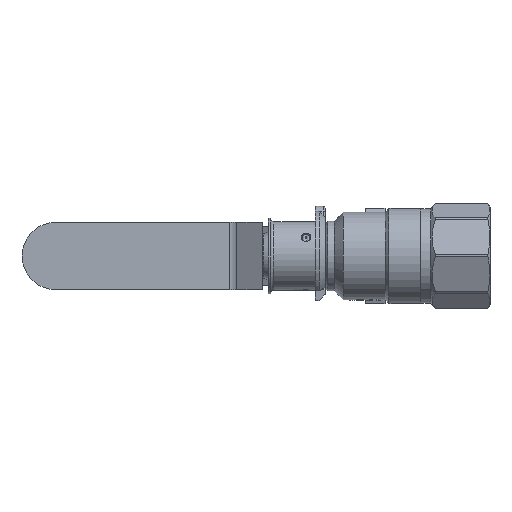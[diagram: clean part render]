
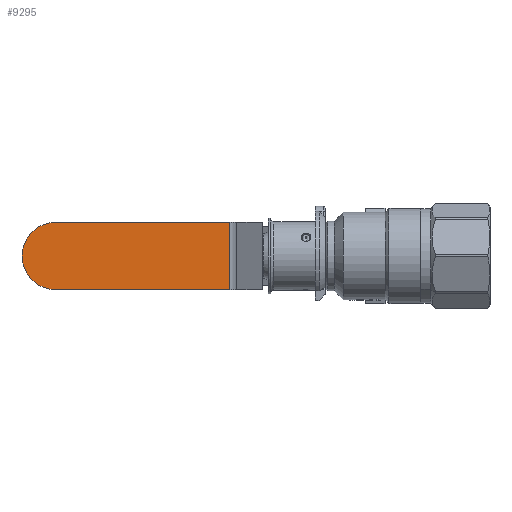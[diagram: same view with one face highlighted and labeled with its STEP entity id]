
A CAD part, front view. The second image highlights one B-rep face of the part: STEP entity #9295.
In plain terms, the highlighted planar face has unit normal (0, -1, 0) as drawn and (0, 0, -1) by its records, which use the part's own axes.
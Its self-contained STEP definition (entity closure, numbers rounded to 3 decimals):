
#649 = ORIENTED_EDGE ( 'NONE', *, *, #4020, .T. ) ;
#2085 = AXIS2_PLACEMENT_3D ( 'NONE', #21224, #25359, #6886 ) ;
#2227 = DIRECTION ( 'NONE',  ( 0., -1., 0. ) ) ;
#3033 = VECTOR ( 'NONE', #2227, 1000. ) ;
#4020 = EDGE_CURVE ( 'NONE', #46271, #16439, #17107, .T. ) ;
#4091 = DIRECTION ( 'NONE',  ( 0., 0., -1. ) ) ;
#5842 = CIRCLE ( 'NONE', #12418, 8.5 ) ;
#6886 = DIRECTION ( 'NONE',  ( -1., 0., 0. ) ) ;
#7170 = FACE_OUTER_BOUND ( 'NONE', #8840, .T. ) ;
#7308 = CARTESIAN_POINT ( 'NONE',  ( 36.668, -8.5, 14.579 ) ) ;
#8523 = VERTEX_POINT ( 'NONE', #16610 ) ;
#8840 = EDGE_LOOP ( 'NONE', ( #649, #28434, #25719, #17625, #20580 ) ) ;
#9295 = ADVANCED_FACE ( 'NONE', ( #7170 ), #21694, .T. ) ;
#11517 = CARTESIAN_POINT ( 'NONE',  ( 80.604, 0., 14.579 ) ) ;
#12418 = AXIS2_PLACEMENT_3D ( 'NONE', #44027, #4091, #18578 ) ;
#12637 = CIRCLE ( 'NONE', #20898, 8.5 ) ;
#13515 = EDGE_CURVE ( 'NONE', #46271, #19314, #36329, .T. ) ;
#15060 = EDGE_CURVE ( 'NONE', #19314, #26822, #20784, .T. ) ;
#15526 = DIRECTION ( 'NONE',  ( 0., 0., -1. ) ) ;
#15970 = CARTESIAN_POINT ( 'NONE',  ( 36.668, 8.5, 14.579 ) ) ;
#16326 = CARTESIAN_POINT ( 'NONE',  ( 80.604, -8.5, 14.579 ) ) ;
#16439 = VERTEX_POINT ( 'NONE', #28429 ) ;
#16610 = CARTESIAN_POINT ( 'NONE',  ( 89.104, 0., 14.579 ) ) ;
#17107 = LINE ( 'NONE', #15970, #39447 ) ;
#17625 = ORIENTED_EDGE ( 'NONE', *, *, #15060, .F. ) ;
#18578 = DIRECTION ( 'NONE',  ( -1., 0., 0. ) ) ;
#19314 = VERTEX_POINT ( 'NONE', #7308 ) ;
#19557 = EDGE_CURVE ( 'NONE', #8523, #26822, #5842, .T. ) ;
#20580 = ORIENTED_EDGE ( 'NONE', *, *, #13515, .F. ) ;
#20784 = LINE ( 'NONE', #37369, #43118 ) ;
#20898 = AXIS2_PLACEMENT_3D ( 'NONE', #11517, #15526, #41161 ) ;
#21224 = CARTESIAN_POINT ( 'NONE',  ( 36.668, 8.5, 14.579 ) ) ;
#21694 = PLANE ( 'NONE',  #2085 ) ;
#25359 = DIRECTION ( 'NONE',  ( 0., 0., -1. ) ) ;
#25719 = ORIENTED_EDGE ( 'NONE', *, *, #19557, .T. ) ;
#26466 = DIRECTION ( 'NONE',  ( 1., 0., 0. ) ) ;
#26822 = VERTEX_POINT ( 'NONE', #16326 ) ;
#26864 = DIRECTION ( 'NONE',  ( 1., 0., 0. ) ) ;
#28429 = CARTESIAN_POINT ( 'NONE',  ( 80.604, 8.5, 14.579 ) ) ;
#28434 = ORIENTED_EDGE ( 'NONE', *, *, #40183, .T. ) ;
#33539 = CARTESIAN_POINT ( 'NONE',  ( 36.668, 8.5, 14.579 ) ) ;
#36329 = LINE ( 'NONE', #46635, #3033 ) ;
#37369 = CARTESIAN_POINT ( 'NONE',  ( 36.668, -8.5, 14.579 ) ) ;
#39447 = VECTOR ( 'NONE', #26864, 1000. ) ;
#40183 = EDGE_CURVE ( 'NONE', #16439, #8523, #12637, .T. ) ;
#41161 = DIRECTION ( 'NONE',  ( -1., 0., 0. ) ) ;
#43118 = VECTOR ( 'NONE', #26466, 1000. ) ;
#44027 = CARTESIAN_POINT ( 'NONE',  ( 80.604, 0., 14.579 ) ) ;
#46271 = VERTEX_POINT ( 'NONE', #33539 ) ;
#46635 = CARTESIAN_POINT ( 'NONE',  ( 36.668, 8.5, 14.579 ) ) ;
